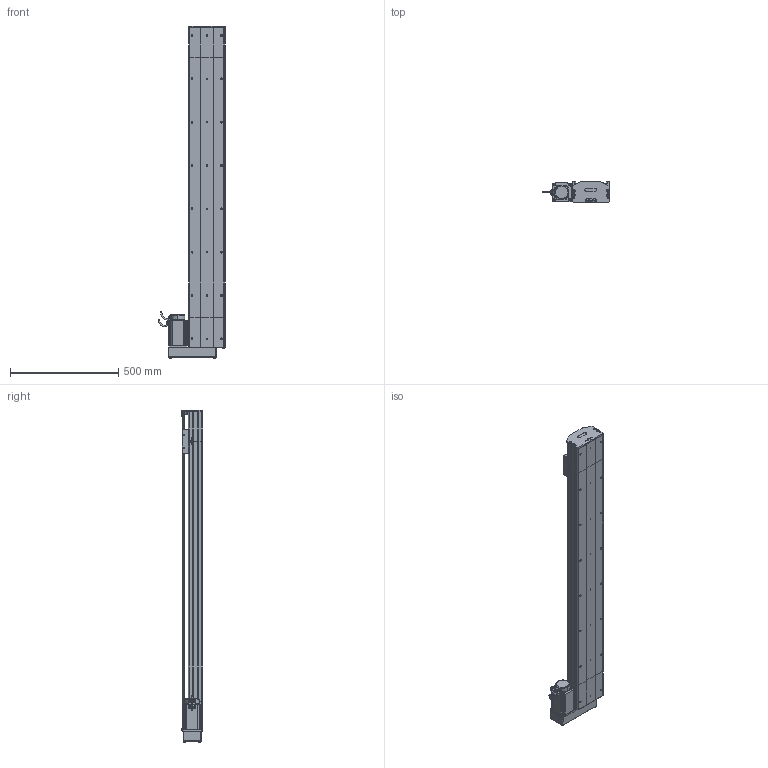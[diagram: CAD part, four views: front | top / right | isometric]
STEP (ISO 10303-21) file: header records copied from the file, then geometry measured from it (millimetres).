
FILE_DESCRIPTION (( 'STEP AP214' ), '1' );
FILE_NAME ('D17 TSN BR S1200.STEP', '2010-06-30T07:52:33', ( 'Christophe Gaillard' ), ( 'SGA' ), 'SwSTEP 2.0', 'SolidWorks 2010', '' );
FILE_SCHEMA (( 'AUTOMOTIVE_DESIGN' ));
Length unit declared in the file: millimetre
Products named in the file (33): Tail D17_Default; couvercle D17 course L1200_Default; arbre + rail D17 Course 1200 ; corp D17 1200_Default; course 1200 D17_Default; vis M5 L12_Default; Cvis M5 L70_Default; guide D17; Chariot D17 TBN; chariot D17 TSN; tete d''axe bas D17; plaque de  bout tail D17_Default; corpl tail D17_Default; couvercle D17_Default; Arbre+rail tail D17; tete d''axe haut D17; corpl head D17 BM_Default; head BR_Default; vis M5 L25_Default; vis M5 L8 90°_Default; Arbre+rail head D17; plaque de  bout BM head D17_Default; couvercle D17 head_Default; avant 90BLDC125A-640; Moteur motionking 90BLDC125A-640; vis M5 L5_Default; Conecteur2_Default; codeur 90BLDC125-640; corps 90BLDC125A-640; renvoi BR_Default; Vis M5 L16-2_Default; Conecteur_Default; D17 TSN BR S1200
Assembly tree (51 placements, depth 4):
  D17 TSN BR S1200
    Tail D17_Default
      tete d''axe haut D17
      corpl tail D17_Default
      vis M5 L12_Default  x4
      vis M5 L25_Default  x2
      Arbre+rail tail D17
      tete d''axe bas D17
      vis M5 L8 90°_Default  x2
      couvercle D17_Default
      plaque de  bout tail D17_Default
    course 1200 D17_Default
      couvercle D17 course L1200_Default
      corp D17 1200_Default
      arbre + rail D17 Course 1200 
    head BR_Default
      corpl head D17 BM_Default
      renvoi BR_Default
      vis M5 L5_Default  x2
      vis M5 L12_Default  x8
      Vis M5 L16-2_Default  x4
      couvercle D17 head_Default
      Moteur motionking 90BLDC125A-640
        Conecteur2_Default
        Conecteur_Default
        codeur 90BLDC125-640
        avant 90BLDC125A-640
        corps 90BLDC125A-640
      Cvis M5 L70_Default  x2
      plaque de  bout BM head D17_Default
      Arbre+rail head D17
    chariot D17 TSN
      guide D17  x2
      Chariot D17 TBN
Bounding box: 308.95 x 99.7 x 1532.7 mm (x, y, z)
Volume: 9646563 mm3; surface area: 2486809.6 mm2
Topology: 75 solids, 75 shells, 2153 faces, 5483 edges, 3544 vertices
Faces by surface type: plane 1322, cylinder 570, bspline 136, torus 65, cone 56, sphere 4
Entity records: 72336 total; most frequent: CARTESIAN_POINT 22796, ORIENTED_EDGE 8874, DIRECTION 8274, EDGE_CURVE 4437, VECTOR 3058, LINE 3058, VERTEX_POINT 2910, AXIS2_PLACEMENT_3D 2608
